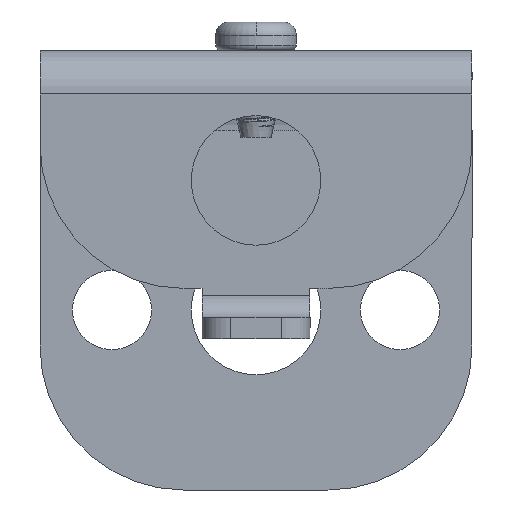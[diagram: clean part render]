
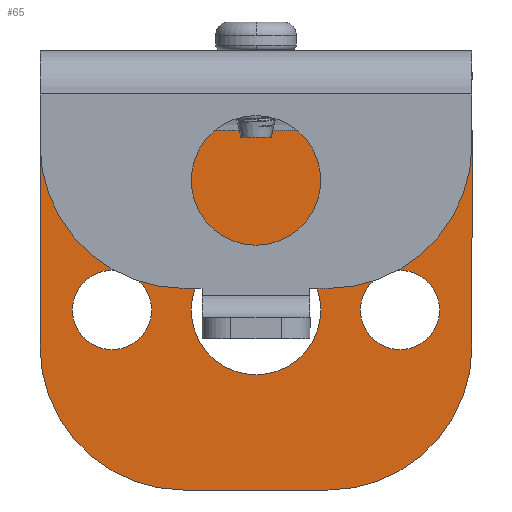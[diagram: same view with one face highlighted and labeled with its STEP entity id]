
A CAD part, front view. The second image highlights one B-rep face of the part: STEP entity #65.
In plain terms, the highlighted planar face has unit normal (0, -1, 0).
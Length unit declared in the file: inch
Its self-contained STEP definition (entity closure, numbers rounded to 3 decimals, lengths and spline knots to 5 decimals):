
#16 = DIRECTION ( 'NONE',  ( 0., -1., 0. ) ) ;
#65 = ADVANCED_FACE ( 'NONE', ( #1833, #2307, #4525, #1275 ), #3894, .T. ) ;
#147 = DIRECTION ( 'NONE',  ( 0., 0., -1. ) ) ;
#183 = DIRECTION ( 'NONE',  ( 0., 0., 1. ) ) ;
#390 = VERTEX_POINT ( 'NONE', #732 ) ;
#524 = DIRECTION ( 'NONE',  ( 0., -1., 0. ) ) ;
#570 = ORIENTED_EDGE ( 'NONE', *, *, #1381, .F. ) ;
#625 = VECTOR ( 'NONE', #4658, 39.37008 ) ;
#642 = VERTEX_POINT ( 'NONE', #5908 ) ;
#715 = LINE ( 'NONE', #5338, #1903 ) ;
#732 = CARTESIAN_POINT ( 'NONE',  ( 0.3937, -0.07874, 0.10827 ) ) ;
#741 = EDGE_CURVE ( 'NONE', #5597, #6314, #3984, .T. ) ;
#788 = CIRCLE ( 'NONE', #6190, 0.3937 ) ;
#900 = CARTESIAN_POINT ( 'NONE',  ( -0.59055, -0.07874, 0.49213 ) ) ;
#907 = EDGE_LOOP ( 'NONE', ( #570, #3570 ) ) ;
#947 = DIRECTION ( 'NONE',  ( 0., -1., 0. ) ) ;
#1096 = VERTEX_POINT ( 'NONE', #5017 ) ;
#1129 = DIRECTION ( 'NONE',  ( 0., 0., -1. ) ) ;
#1155 = CARTESIAN_POINT ( 'NONE',  ( 0.59055, -0.07874, 0.49213 ) ) ;
#1158 = ORIENTED_EDGE ( 'NONE', *, *, #2412, .F. ) ;
#1275 = FACE_OUTER_BOUND ( 'NONE', #2153, .T. ) ;
#1309 = CIRCLE ( 'NONE', #6085, 0.10827 ) ;
#1311 = VECTOR ( 'NONE', #183, 39.37008 ) ;
#1323 = EDGE_CURVE ( 'NONE', #1402, #390, #3558, .T. ) ;
#1348 = AXIS2_PLACEMENT_3D ( 'NONE', #3444, #4440, #1414 ) ;
#1381 = EDGE_CURVE ( 'NONE', #1096, #2274, #1894, .T. ) ;
#1400 = ORIENTED_EDGE ( 'NONE', *, *, #6102, .T. ) ;
#1402 = VERTEX_POINT ( 'NONE', #2087 ) ;
#1414 = DIRECTION ( 'NONE',  ( 0., 0., -1. ) ) ;
#1427 = CARTESIAN_POINT ( 'NONE',  ( -0.59055, -0.07874, -0.09843 ) ) ;
#1666 = VERTEX_POINT ( 'NONE', #2854 ) ;
#1729 = EDGE_CURVE ( 'NONE', #6314, #4513, #715, .T. ) ;
#1743 = EDGE_LOOP ( 'NONE', ( #6031, #5831 ) ) ;
#1782 = ORIENTED_EDGE ( 'NONE', *, *, #2628, .T. ) ;
#1833 = FACE_BOUND ( 'NONE', #3554, .T. ) ;
#1866 = AXIS2_PLACEMENT_3D ( 'NONE', #5498, #3079, #1969 ) ;
#1894 = CIRCLE ( 'NONE', #4723, 0.17717 ) ;
#1903 = VECTOR ( 'NONE', #3411, 39.37008 ) ;
#1910 = CARTESIAN_POINT ( 'NONE',  ( -0.3937, -0.07874, 0. ) ) ;
#1969 = DIRECTION ( 'NONE',  ( 0., 0., -1. ) ) ;
#2054 = VERTEX_POINT ( 'NONE', #6156 ) ;
#2059 = EDGE_CURVE ( 'NONE', #2757, #1666, #5854, .T. ) ;
#2087 = CARTESIAN_POINT ( 'NONE',  ( 0.3937, -0.07874, -0.10827 ) ) ;
#2153 = EDGE_LOOP ( 'NONE', ( #3047, #1400, #5142, #1782, #1158, #5243 ) ) ;
#2192 = ORIENTED_EDGE ( 'NONE', *, *, #5559, .F. ) ;
#2210 = DIRECTION ( 'NONE',  ( 0., 0., -1. ) ) ;
#2274 = VERTEX_POINT ( 'NONE', #3062 ) ;
#2280 = CARTESIAN_POINT ( 'NONE',  ( 0.19685, -0.07874, -0.09843 ) ) ;
#2307 = FACE_BOUND ( 'NONE', #1743, .T. ) ;
#2412 = EDGE_CURVE ( 'NONE', #4513, #2054, #4430, .T. ) ;
#2424 = DIRECTION ( 'NONE',  ( 0., 0., -1. ) ) ;
#2628 = EDGE_CURVE ( 'NONE', #2757, #2054, #788, .T. ) ;
#2671 = CIRCLE ( 'NONE', #3559, 0.10827 ) ;
#2714 = CARTESIAN_POINT ( 'NONE',  ( -0.3937, -0.07874, 0.10827 ) ) ;
#2757 = VERTEX_POINT ( 'NONE', #4697 ) ;
#2854 = CARTESIAN_POINT ( 'NONE',  ( -0.19685, -0.07874, -0.49213 ) ) ;
#3047 = ORIENTED_EDGE ( 'NONE', *, *, #741, .F. ) ;
#3062 = CARTESIAN_POINT ( 'NONE',  ( 0., -0.07874, -0.17717 ) ) ;
#3079 = DIRECTION ( 'NONE',  ( 0., -1., 0. ) ) ;
#3092 = CARTESIAN_POINT ( 'NONE',  ( -0.19685, -0.07874, -0.09843 ) ) ;
#3103 = VECTOR ( 'NONE', #2210, 39.37008 ) ;
#3219 = DIRECTION ( 'NONE',  ( 0., -1., 0. ) ) ;
#3353 = EDGE_CURVE ( 'NONE', #2274, #1096, #4731, .T. ) ;
#3365 = AXIS2_PLACEMENT_3D ( 'NONE', #3092, #16, #3583 ) ;
#3389 = AXIS2_PLACEMENT_3D ( 'NONE', #6245, #3219, #147 ) ;
#3411 = DIRECTION ( 'NONE',  ( 1., 0., 0. ) ) ;
#3412 = AXIS2_PLACEMENT_3D ( 'NONE', #5035, #5355, #3433 ) ;
#3433 = DIRECTION ( 'NONE',  ( 0., 0., -1. ) ) ;
#3444 = CARTESIAN_POINT ( 'NONE',  ( 0., -0.07874, 0. ) ) ;
#3554 = EDGE_LOOP ( 'NONE', ( #6584, #2192 ) ) ;
#3558 = CIRCLE ( 'NONE', #3389, 0.10827 ) ;
#3559 = AXIS2_PLACEMENT_3D ( 'NONE', #3666, #524, #4947 ) ;
#3570 = ORIENTED_EDGE ( 'NONE', *, *, #3353, .F. ) ;
#3583 = DIRECTION ( 'NONE',  ( 0., 0., -1. ) ) ;
#3644 = CARTESIAN_POINT ( 'NONE',  ( -0.59055, -0.07874, -0.49213 ) ) ;
#3666 = CARTESIAN_POINT ( 'NONE',  ( -0.3937, -0.07874, 0. ) ) ;
#3824 = CIRCLE ( 'NONE', #3365, 0.3937 ) ;
#3894 = PLANE ( 'NONE',  #1348 ) ;
#3984 = LINE ( 'NONE', #900, #1311 ) ;
#4237 = EDGE_CURVE ( 'NONE', #390, #1402, #4642, .T. ) ;
#4293 = EDGE_CURVE ( 'NONE', #5233, #642, #2671, .T. ) ;
#4326 = CARTESIAN_POINT ( 'NONE',  ( 0.59055, -0.07874, 0.49213 ) ) ;
#4430 = LINE ( 'NONE', #1155, #3103 ) ;
#4440 = DIRECTION ( 'NONE',  ( 0., -1., 0. ) ) ;
#4513 = VERTEX_POINT ( 'NONE', #4326 ) ;
#4525 = FACE_BOUND ( 'NONE', #907, .T. ) ;
#4642 = CIRCLE ( 'NONE', #1866, 0.10827 ) ;
#4658 = DIRECTION ( 'NONE',  ( -1., 0., 0. ) ) ;
#4697 = CARTESIAN_POINT ( 'NONE',  ( 0.19685, -0.07874, -0.49213 ) ) ;
#4723 = AXIS2_PLACEMENT_3D ( 'NONE', #5542, #947, #4967 ) ;
#4731 = CIRCLE ( 'NONE', #3412, 0.17717 ) ;
#4744 = DIRECTION ( 'NONE',  ( 0., -1., 0. ) ) ;
#4947 = DIRECTION ( 'NONE',  ( 0., 0., -1. ) ) ;
#4967 = DIRECTION ( 'NONE',  ( 0., 0., -1. ) ) ;
#5017 = CARTESIAN_POINT ( 'NONE',  ( 0., -0.07874, 0.17717 ) ) ;
#5035 = CARTESIAN_POINT ( 'NONE',  ( 0., -0.07874, 0. ) ) ;
#5142 = ORIENTED_EDGE ( 'NONE', *, *, #2059, .F. ) ;
#5233 = VERTEX_POINT ( 'NONE', #2714 ) ;
#5243 = ORIENTED_EDGE ( 'NONE', *, *, #1729, .F. ) ;
#5338 = CARTESIAN_POINT ( 'NONE',  ( -0.59055, -0.07874, 0.49213 ) ) ;
#5355 = DIRECTION ( 'NONE',  ( 0., -1., 0. ) ) ;
#5420 = DIRECTION ( 'NONE',  ( 0., -1., 0. ) ) ;
#5498 = CARTESIAN_POINT ( 'NONE',  ( 0.3937, -0.07874, 0. ) ) ;
#5542 = CARTESIAN_POINT ( 'NONE',  ( 0., -0.07874, 0. ) ) ;
#5559 = EDGE_CURVE ( 'NONE', #642, #5233, #1309, .T. ) ;
#5597 = VERTEX_POINT ( 'NONE', #1427 ) ;
#5831 = ORIENTED_EDGE ( 'NONE', *, *, #1323, .F. ) ;
#5854 = LINE ( 'NONE', #3644, #625 ) ;
#5908 = CARTESIAN_POINT ( 'NONE',  ( -0.3937, -0.07874, -0.10827 ) ) ;
#6031 = ORIENTED_EDGE ( 'NONE', *, *, #4237, .F. ) ;
#6085 = AXIS2_PLACEMENT_3D ( 'NONE', #1910, #5420, #2424 ) ;
#6102 = EDGE_CURVE ( 'NONE', #5597, #1666, #3824, .T. ) ;
#6156 = CARTESIAN_POINT ( 'NONE',  ( 0.59055, -0.07874, -0.09843 ) ) ;
#6190 = AXIS2_PLACEMENT_3D ( 'NONE', #2280, #4744, #1129 ) ;
#6245 = CARTESIAN_POINT ( 'NONE',  ( 0.3937, -0.07874, 0. ) ) ;
#6314 = VERTEX_POINT ( 'NONE', #6453 ) ;
#6453 = CARTESIAN_POINT ( 'NONE',  ( -0.59055, -0.07874, 0.49213 ) ) ;
#6584 = ORIENTED_EDGE ( 'NONE', *, *, #4293, .F. ) ;
